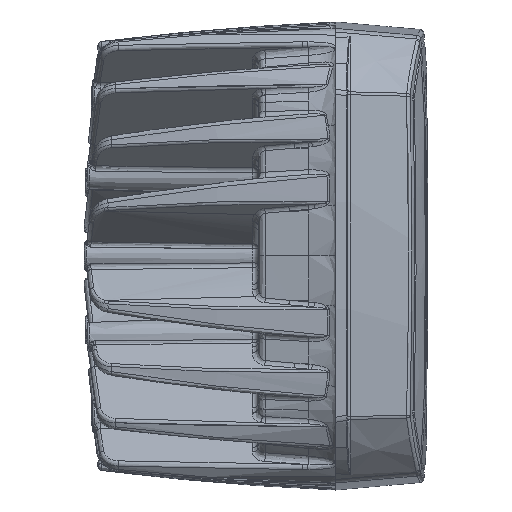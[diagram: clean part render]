
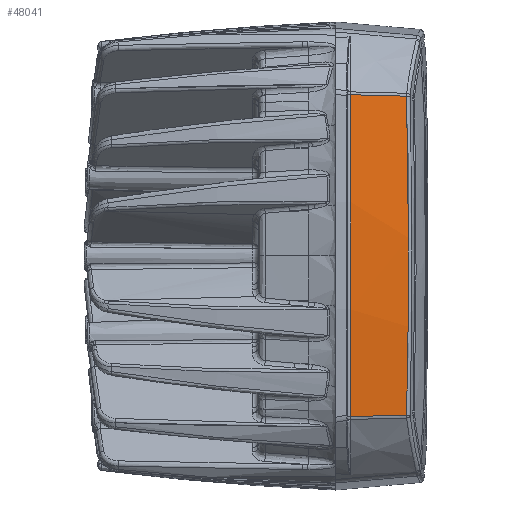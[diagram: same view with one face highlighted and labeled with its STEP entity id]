
A CAD part, top view. The second image highlights one B-rep face of the part: STEP entity #48041.
In plain terms, the highlighted conical face has half-angle 5 degrees and reference radius 400 mm.
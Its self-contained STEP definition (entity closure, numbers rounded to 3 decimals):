
#38590=AXIS2_PLACEMENT_3D('Circle Axis2P3D',#38588,#38589,$) ;
#48010=AXIS2_PLACEMENT_3D('Cone Axis2P3D',#48007,#48008,#48009) ;
#38588=CARTESIAN_POINT('Axis2P3D Location',(30.685,0.,-347.5)) ;
#38592=CARTESIAN_POINT('Vertex',(30.685,-39.54,50.217)) ;
#38594=CARTESIAN_POINT('Vertex',(30.685,39.54,50.217)) ;
#48007=CARTESIAN_POINT('Axis2P3D Location',(27.,0.,-347.5)) ;
#48013=CARTESIAN_POINT('Control Point',(44.447,-39.193,49.041)) ;
#48014=CARTESIAN_POINT('Control Point',(39.86,-39.309,49.433)) ;
#48015=CARTESIAN_POINT('Control Point',(35.272,-39.425,49.825)) ;
#48016=CARTESIAN_POINT('Control Point',(30.685,-39.54,50.217)) ;
#48017=CARTESIAN_POINT('Vertex',(44.447,-39.193,49.041)) ;
#48021=CARTESIAN_POINT('Control Point',(44.447,39.193,49.041)) ;
#48022=CARTESIAN_POINT('Control Point',(44.918,19.676,50.929)) ;
#48023=CARTESIAN_POINT('Control Point',(45.055,0.,51.569)) ;
#48024=CARTESIAN_POINT('Control Point',(44.918,-19.677,50.929)) ;
#48025=CARTESIAN_POINT('Control Point',(44.447,-39.193,49.041)) ;
#48026=CARTESIAN_POINT('Vertex',(44.447,39.193,49.041)) ;
#48030=CARTESIAN_POINT('Control Point',(44.447,39.193,49.041)) ;
#48031=CARTESIAN_POINT('Control Point',(39.86,39.309,49.433)) ;
#48032=CARTESIAN_POINT('Control Point',(35.272,39.425,49.825)) ;
#48033=CARTESIAN_POINT('Control Point',(30.685,39.54,50.217)) ;
#38589=DIRECTION('Axis2P3D Direction',(1.,-0.,0.)) ;
#48008=DIRECTION('Axis2P3D Direction',(-1.,-0.,-0.)) ;
#48009=DIRECTION('Axis2P3D XDirection',(0.,0.1,0.995)) ;
#48036=ORIENTED_EDGE('',*,*,#38596,.F.) ;
#48037=ORIENTED_EDGE('',*,*,#48019,.F.) ;
#48038=ORIENTED_EDGE('',*,*,#48028,.F.) ;
#48039=ORIENTED_EDGE('',*,*,#48034,.T.) ;
#48041=ADVANCED_FACE('Houisng_gr',(#48040),#48011,.T.) ;
#48012=B_SPLINE_CURVE_WITH_KNOTS('',3,(#48013,#48014,#48015,#48016),.UNSPECIFIED.,.F.,.U.,(4,4),(10.309,29.85),.UNSPECIFIED.) ;
#48020=B_SPLINE_CURVE_WITH_KNOTS('',4,(#48021,#48022,#48023,#48024,#48025),.UNSPECIFIED.,.F.,.U.,(5,5),(44.211,141.537),.UNSPECIFIED.) ;
#48029=B_SPLINE_CURVE_WITH_KNOTS('',3,(#48030,#48031,#48032,#48033),.UNSPECIFIED.,.F.,.U.,(4,4),(10.309,29.85),.UNSPECIFIED.) ;
#38591=CIRCLE('generated circle',#38590,399.678) ;
#48011=CONICAL_SURFACE('Cone',#48010,400.,0.087) ;
#38596=EDGE_CURVE('',#38593,#38595,#38591,.F.) ;
#48019=EDGE_CURVE('',#48018,#38593,#48012,.T.) ;
#48028=EDGE_CURVE('',#48027,#48018,#48020,.T.) ;
#48034=EDGE_CURVE('',#48027,#38595,#48029,.T.) ;
#48035=EDGE_LOOP('',(#48036,#48037,#48038,#48039)) ;
#48040=FACE_OUTER_BOUND('',#48035,.T.) ;
#38593=VERTEX_POINT('',#38592) ;
#38595=VERTEX_POINT('',#38594) ;
#48018=VERTEX_POINT('',#48017) ;
#48027=VERTEX_POINT('',#48026) ;
